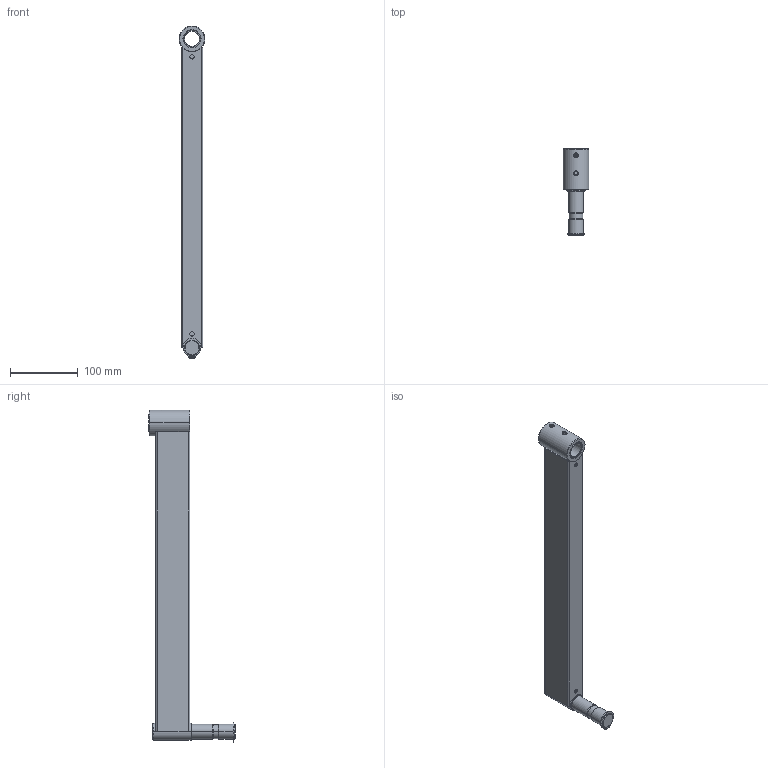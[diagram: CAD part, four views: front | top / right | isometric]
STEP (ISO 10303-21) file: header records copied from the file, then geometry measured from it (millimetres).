
FILE_DESCRIPTION (( 'STEP AP214' ), '1' );
FILE_NAME ('70-1018-00 REV AA, 18in RIGID SECTION.STEP', '2025-05-12T13:27:42', ( '' ), ( '' ), 'SwSTEP 2.0', 'SolidWorks 2025', '' );
FILE_SCHEMA (( 'AUTOMOTIVE_DESIGN' ));
Length unit declared in the file: inch
Products named in the file (8): 010-012-00, RETAINING RING, EXTERNAL, .875in SHAFT; 71-1018-RX REV AA, HOUSING, 18in RIGID; 007-036-00, SHSS, 1''4-28, .25L_007-036-00; 016-008-00, OILITE PLUS BEARING, 0.876 id x 1.002 od x 1.25 lg; 71-2113-RX REV AA, HOUSING, BEARING, TALL, 1.5OD_MACHINE; 016-007-00, OILITE PLUS BEARING, 0.876 id x 1.002 od x 0.75 lg; 71-0022-RX REV AA, PIN, RIGID SECTION; 70-1018-00 REV AA, 18in RIGID SECTION
Assembly tree (7 placements, depth 2):
  70-1018-00 REV AA, 18in RIGID SECTION
    71-1018-RX REV AA, HOUSING, 18in RIGID
    71-0022-RX REV AA, PIN, RIGID SECTION
    71-2113-RX REV AA, HOUSING, BEARING, TALL, 1.5OD_MACHINE
    016-007-00, OILITE PLUS BEARING, 0.876 id x 1.002 od x 0.75 lg
    016-008-00, OILITE PLUS BEARING, 0.876 id x 1.002 od x 1.25 lg
    010-012-00, RETAINING RING, EXTERNAL, .875in SHAFT
    007-036-00, SHSS, 1''4-28, .25L_007-036-00
Bounding box: 38.1 x 127.38 x 491.58 mm (x, y, z)
Volume: 240232.7 mm3; surface area: 168348.7 mm2
Topology: 7 solids, 7 shells, 174 faces, 411 edges, 250 vertices
Faces by surface type: cylinder 75, plane 42, cone 28, torus 26, bspline 3
Entity records: 6765 total; most frequent: CARTESIAN_POINT 2457, DIRECTION 909, ORIENTED_EDGE 814, EDGE_CURVE 407, AXIS2_PLACEMENT_3D 378, VERTEX_POINT 250, CIRCLE 197, EDGE_LOOP 197
